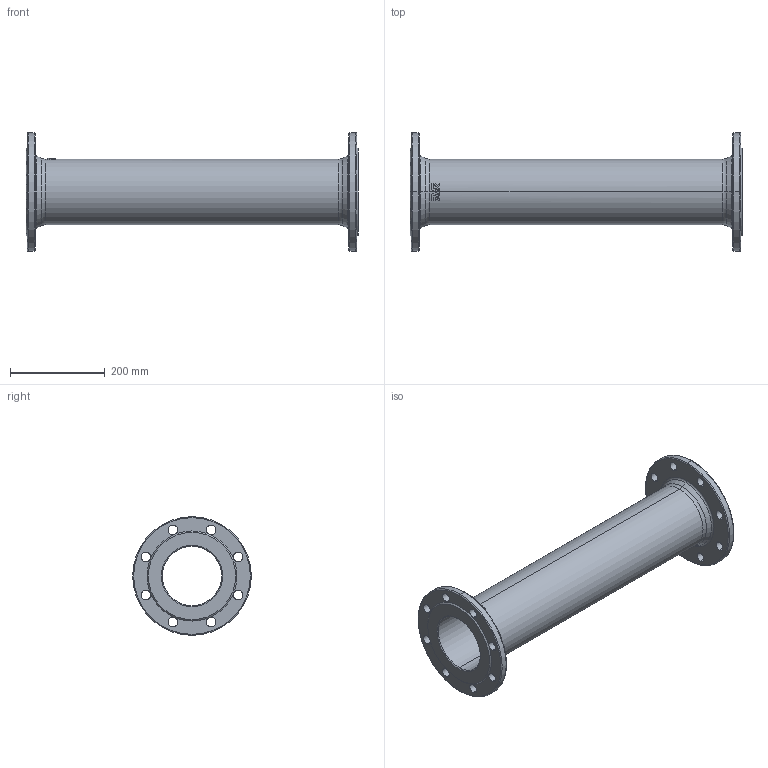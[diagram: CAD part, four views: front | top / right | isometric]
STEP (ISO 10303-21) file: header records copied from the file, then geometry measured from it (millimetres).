
FILE_DESCRIPTION (( 'STEP AP203' ), '1' );
FILE_NAME ('O_712_5010_DN125_1X_REV01.step', '2021-12-03T09:40:13', ( '' ), ( '' ), 'SwSTEP 2.0', 'SolidWorks 2019', '' );
FILE_SCHEMA (( 'CONFIG_CONTROL_DESIGN' ));
Length unit declared in the file: millimetre
Products named in the file (1): O_712_5010_DN125_1X_REV01
Bounding box: 700 x 250 x 250 mm (x, y, z)
Volume: 3172046.8 mm3; surface area: 729160.5 mm2
Topology: 1 solids, 1 shells, 116 faces, 327 edges, 204 vertices
Faces by surface type: cylinder 45, plane 26, bspline 17, torus 16, cone 12
Entity records: 4662 total; most frequent: CARTESIAN_POINT 1475, DIRECTION 687, ORIENTED_EDGE 654, EDGE_CURVE 327, AXIS2_PLACEMENT_3D 294, VERTEX_POINT 204, CIRCLE 194, EDGE_LOOP 141
